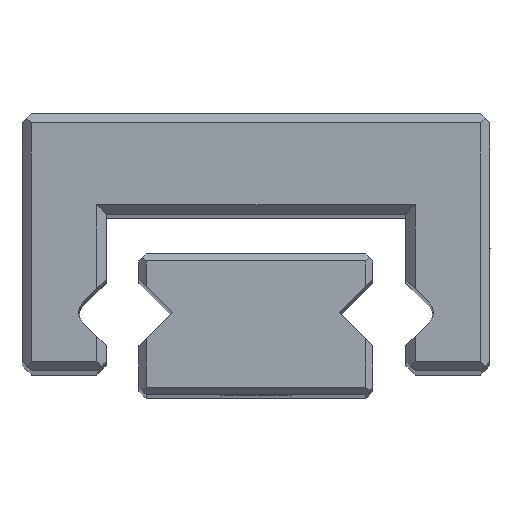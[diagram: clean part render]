
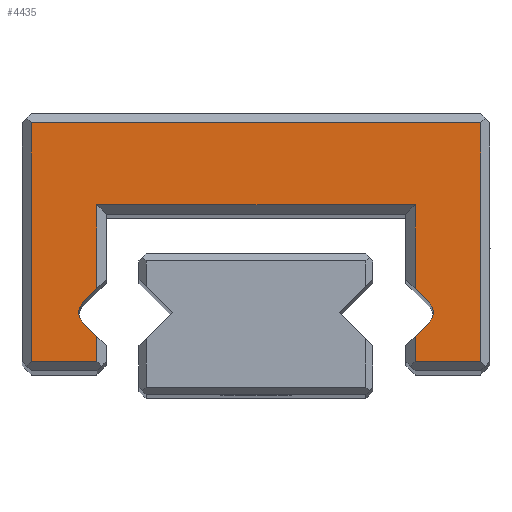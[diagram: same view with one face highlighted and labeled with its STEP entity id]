
A CAD part, top view. The second image highlights one B-rep face of the part: STEP entity #4435.
In plain terms, the highlighted planar face has unit normal (0, 0, 1).
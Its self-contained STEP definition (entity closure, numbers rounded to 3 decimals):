
#1902 = AXIS2_PLACEMENT_3D ( 'NONE', #5447, #5448, #5449 ) ;
#1904 = CIRCLE ( 'NONE', #1902, 0.3 ) ;
#1968 = CARTESIAN_POINT ( 'NONE',  ( 3.4, 1.762, 25. ) ) ;
#2014 = CARTESIAN_POINT ( 'NONE',  ( 3.4, 0.738, 25. ) ) ;
#2049 = CARTESIAN_POINT ( 'NONE',  ( -3.4, 1.762, 25. ) ) ;
#2051 = CARTESIAN_POINT ( 'NONE',  ( 3.4, 0.2, 25. ) ) ;
#2062 = CARTESIAN_POINT ( 'NONE',  ( -3.4, 3.55, 25. ) ) ;
#2063 = CARTESIAN_POINT ( 'NONE',  ( 4.8, 0.2, 25. ) ) ;
#2069 = CARTESIAN_POINT ( 'NONE',  ( 4.8, 5.3, 25. ) ) ;
#2071 = CARTESIAN_POINT ( 'NONE',  ( -4.8, 5.3, 25. ) ) ;
#2073 = CARTESIAN_POINT ( 'NONE',  ( -4.8, 0.2, 25. ) ) ;
#2075 = CARTESIAN_POINT ( 'NONE',  ( -3.4, 0.2, 25. ) ) ;
#2079 = CARTESIAN_POINT ( 'NONE',  ( 3.4, 3.55, 25. ) ) ;
#2315 = EDGE_LOOP ( 'NONE', ( #2749, #2629, #2700, #2650, #2807, #2761, #2688, #2687, #2674, #2745, #2652, #2597, #2702, #2654, #2742, #2740, #2743 ) ) ;
#2597 = ORIENTED_EDGE ( 'NONE', *, *, #8888, .T. ) ;
#2629 = ORIENTED_EDGE ( 'NONE', *, *, #8985, .T. ) ;
#2650 = ORIENTED_EDGE ( 'NONE', *, *, #8983, .T. ) ;
#2652 = ORIENTED_EDGE ( 'NONE', *, *, #4370, .T. ) ;
#2654 = ORIENTED_EDGE ( 'NONE', *, *, #8977, .T. ) ;
#2674 = ORIENTED_EDGE ( 'NONE', *, *, #8881, .T. ) ;
#2687 = ORIENTED_EDGE ( 'NONE', *, *, #8979, .T. ) ;
#2688 = ORIENTED_EDGE ( 'NONE', *, *, #8980, .T. ) ;
#2700 = ORIENTED_EDGE ( 'NONE', *, *, #8984, .T. ) ;
#2702 = ORIENTED_EDGE ( 'NONE', *, *, #8978, .T. ) ;
#2740 = ORIENTED_EDGE ( 'NONE', *, *, #8943, .T. ) ;
#2742 = ORIENTED_EDGE ( 'NONE', *, *, #8976, .T. ) ;
#2743 = ORIENTED_EDGE ( 'NONE', *, *, #9014, .T. ) ;
#2745 = ORIENTED_EDGE ( 'NONE', *, *, #8880, .T. ) ;
#2749 = ORIENTED_EDGE ( 'NONE', *, *, #9009, .T. ) ;
#2761 = ORIENTED_EDGE ( 'NONE', *, *, #8981, .T. ) ;
#2780 = VECTOR ( 'NONE', #9589, 1000. ) ;
#2807 = ORIENTED_EDGE ( 'NONE', *, *, #8982, .T. ) ;
#2847 = VECTOR ( 'NONE', #11101, 1000. ) ;
#3471 = VERTEX_POINT ( 'NONE', #3822 ) ;
#3545 = VERTEX_POINT ( 'NONE', #3860 ) ;
#3568 = VERTEX_POINT ( 'NONE', #3872 ) ;
#3607 = VERTEX_POINT ( 'NONE', #1968 ) ;
#3657 = VERTEX_POINT ( 'NONE', #2014 ) ;
#3694 = VERTEX_POINT ( 'NONE', #2049 ) ;
#3696 = VERTEX_POINT ( 'NONE', #2051 ) ;
#3707 = VERTEX_POINT ( 'NONE', #2062 ) ;
#3709 = VERTEX_POINT ( 'NONE', #2063 ) ;
#3715 = VERTEX_POINT ( 'NONE', #2069 ) ;
#3717 = VERTEX_POINT ( 'NONE', #2071 ) ;
#3718 = VERTEX_POINT ( 'NONE', #2073 ) ;
#3722 = VERTEX_POINT ( 'NONE', #2075 ) ;
#3726 = VERTEX_POINT ( 'NONE', #2079 ) ;
#3822 = CARTESIAN_POINT ( 'NONE',  ( -3.701, 1.463, 25. ) ) ;
#3860 = CARTESIAN_POINT ( 'NONE',  ( -3.79, 1.25, 25. ) ) ;
#3872 = CARTESIAN_POINT ( 'NONE',  ( -3.4, 0.738, 25. ) ) ;
#4370 = EDGE_CURVE ( 'NONE', #3545, #3471, #1904, .T. ) ;
#4435 = ADVANCED_FACE ( 'NONE', ( #5757 ), #5751, .T. ) ;
#5030 = LINE ( 'NONE', #5038, #9130 ) ;
#5038 = CARTESIAN_POINT ( 'NONE',  ( 3.4, 1.96, 25. ) ) ;
#5039 = DIRECTION ( 'NONE',  ( 0., -1., 0. ) ) ;
#5040 = LINE ( 'NONE', #5041, #9126 ) ;
#5041 = CARTESIAN_POINT ( 'NONE',  ( 3.2, 3.55, 25. ) ) ;
#5042 = DIRECTION ( 'NONE',  ( 1., 0., 0. ) ) ;
#5043 = LINE ( 'NONE', #5044, #9124 ) ;
#5044 = CARTESIAN_POINT ( 'NONE',  ( -3.4, 3.35, 25. ) ) ;
#5045 = DIRECTION ( 'NONE',  ( 0., 1., 0. ) ) ;
#5046 = LINE ( 'NONE', #5047, #9123 ) ;
#5047 = CARTESIAN_POINT ( 'NONE',  ( -3.4, 0.54, 25. ) ) ;
#5048 = DIRECTION ( 'NONE',  ( 0., 1., 0. ) ) ;
#5049 = LINE ( 'NONE', #5050, #9122 ) ;
#5050 = CARTESIAN_POINT ( 'NONE',  ( -3.4, 0.2, 25. ) ) ;
#5051 = DIRECTION ( 'NONE',  ( 1., 0., 0. ) ) ;
#5052 = LINE ( 'NONE', #5053, #9121 ) ;
#5053 = CARTESIAN_POINT ( 'NONE',  ( -4.8, 0.2, 25. ) ) ;
#5054 = DIRECTION ( 'NONE',  ( 0., -1., 0. ) ) ;
#5055 = LINE ( 'NONE', #5056, #9120 ) ;
#5056 = CARTESIAN_POINT ( 'NONE',  ( -4.8, 5.3, 25. ) ) ;
#5057 = DIRECTION ( 'NONE',  ( -1., 0., 0. ) ) ;
#5058 = LINE ( 'NONE', #5059, #9119 ) ;
#5059 = CARTESIAN_POINT ( 'NONE',  ( 4.8, 5.3, 25. ) ) ;
#5060 = DIRECTION ( 'NONE',  ( 0., 1., 0. ) ) ;
#5061 = LINE ( 'NONE', #5062, #9118 ) ;
#5062 = CARTESIAN_POINT ( 'NONE',  ( 4.8, 0.2, 25. ) ) ;
#5063 = DIRECTION ( 'NONE',  ( 1., 0., 0. ) ) ;
#5064 = LINE ( 'NONE', #5065, #9115 ) ;
#5065 = CARTESIAN_POINT ( 'NONE',  ( 3.4, 0.2, 25. ) ) ;
#5066 = DIRECTION ( 'NONE',  ( 0., -1., 0. ) ) ;
#5136 = LINE ( 'NONE', #5137, #9156 ) ;
#5137 = CARTESIAN_POINT ( 'NONE',  ( 3.2, 0.54, 25. ) ) ;
#5138 = DIRECTION ( 'NONE',  ( -0.71, -0.704, 0. ) ) ;
#5153 = CARTESIAN_POINT ( 'NONE',  ( 3.49, 1.25, 25. ) ) ;
#5154 = DIRECTION ( 'NONE',  ( 0., 0., -1. ) ) ;
#5155 = DIRECTION ( 'NONE',  ( -1., 0., 0. ) ) ;
#5447 = CARTESIAN_POINT ( 'NONE',  ( -3.49, 1.25, 25. ) ) ;
#5448 = DIRECTION ( 'NONE',  ( 0., 0., -1. ) ) ;
#5449 = DIRECTION ( 'NONE',  ( 1., 0., 0. ) ) ;
#5751 = PLANE ( 'NONE',  #8312 ) ;
#5753 = CARTESIAN_POINT ( 'NONE',  ( -3.49, 1.25, 25. ) ) ;
#5757 = FACE_OUTER_BOUND ( 'NONE', #2315, .T. ) ;
#5759 = DIRECTION ( 'NONE',  ( 0., 0., 1. ) ) ;
#5760 = DIRECTION ( 'NONE',  ( 1., 0., 0. ) ) ;
#5952 = AXIS2_PLACEMENT_3D ( 'NONE', #11075, #11076, #11077 ) ;
#5953 = VECTOR ( 'NONE', #11078, 1000. ) ;
#5956 = CIRCLE ( 'NONE', #5952, 0.3 ) ;
#6989 = CARTESIAN_POINT ( 'NONE',  ( -3.701, 1.037, 25. ) ) ;
#7002 = CARTESIAN_POINT ( 'NONE',  ( 3.701, 1.463, 25. ) ) ;
#7052 = CARTESIAN_POINT ( 'NONE',  ( 3.701, 1.037, 25. ) ) ;
#8312 = AXIS2_PLACEMENT_3D ( 'NONE', #5753, #5759, #5760 ) ;
#8362 = CIRCLE ( 'NONE', #8370, 0.3 ) ;
#8370 = AXIS2_PLACEMENT_3D ( 'NONE', #5153, #5154, #5155 ) ;
#8880 = EDGE_CURVE ( 'NONE', #10606, #3545, #5956, .T. ) ;
#8881 = EDGE_CURVE ( 'NONE', #3568, #10606, #11070, .T. ) ;
#8888 = EDGE_CURVE ( 'NONE', #3471, #3694, #11087, .T. ) ;
#8943 = EDGE_CURVE ( 'NONE', #3607, #10619, #9587, .T. ) ;
#8976 = EDGE_CURVE ( 'NONE', #3726, #3607, #5030, .T. ) ;
#8977 = EDGE_CURVE ( 'NONE', #3707, #3726, #5040, .T. ) ;
#8978 = EDGE_CURVE ( 'NONE', #3694, #3707, #5043, .T. ) ;
#8979 = EDGE_CURVE ( 'NONE', #3722, #3568, #5046, .T. ) ;
#8980 = EDGE_CURVE ( 'NONE', #3718, #3722, #5049, .T. ) ;
#8981 = EDGE_CURVE ( 'NONE', #3717, #3718, #5052, .T. ) ;
#8982 = EDGE_CURVE ( 'NONE', #3715, #3717, #5055, .T. ) ;
#8983 = EDGE_CURVE ( 'NONE', #3709, #3715, #5058, .T. ) ;
#8984 = EDGE_CURVE ( 'NONE', #3696, #3709, #5061, .T. ) ;
#8985 = EDGE_CURVE ( 'NONE', #3657, #3696, #5064, .T. ) ;
#9009 = EDGE_CURVE ( 'NONE', #10669, #3657, #5136, .T. ) ;
#9014 = EDGE_CURVE ( 'NONE', #10619, #10669, #8362, .T. ) ;
#9115 = VECTOR ( 'NONE', #5066, 1000. ) ;
#9118 = VECTOR ( 'NONE', #5063, 1000. ) ;
#9119 = VECTOR ( 'NONE', #5060, 1000. ) ;
#9120 = VECTOR ( 'NONE', #5057, 1000. ) ;
#9121 = VECTOR ( 'NONE', #5054, 1000. ) ;
#9122 = VECTOR ( 'NONE', #5051, 1000. ) ;
#9123 = VECTOR ( 'NONE', #5048, 1000. ) ;
#9124 = VECTOR ( 'NONE', #5045, 1000. ) ;
#9126 = VECTOR ( 'NONE', #5042, 1000. ) ;
#9130 = VECTOR ( 'NONE', #5039, 1000. ) ;
#9156 = VECTOR ( 'NONE', #5138, 1000. ) ;
#9587 = LINE ( 'NONE', #9588, #2780 ) ;
#9588 = CARTESIAN_POINT ( 'NONE',  ( 3.701, 1.463, 25. ) ) ;
#9589 = DIRECTION ( 'NONE',  ( 0.71, -0.704, 0. ) ) ;
#10606 = VERTEX_POINT ( 'NONE', #6989 ) ;
#10619 = VERTEX_POINT ( 'NONE', #7002 ) ;
#10669 = VERTEX_POINT ( 'NONE', #7052 ) ;
#11070 = LINE ( 'NONE', #11071, #5953 ) ;
#11071 = CARTESIAN_POINT ( 'NONE',  ( -3.2, 0.54, 25. ) ) ;
#11075 = CARTESIAN_POINT ( 'NONE',  ( -3.49, 1.25, 25. ) ) ;
#11076 = DIRECTION ( 'NONE',  ( 0., 0., -1. ) ) ;
#11077 = DIRECTION ( 'NONE',  ( 1., 0., 0. ) ) ;
#11078 = DIRECTION ( 'NONE',  ( -0.71, 0.704, 0. ) ) ;
#11087 = LINE ( 'NONE', #11100, #2847 ) ;
#11100 = CARTESIAN_POINT ( 'NONE',  ( -3.701, 1.463, 25. ) ) ;
#11101 = DIRECTION ( 'NONE',  ( 0.71, 0.704, 0. ) ) ;
